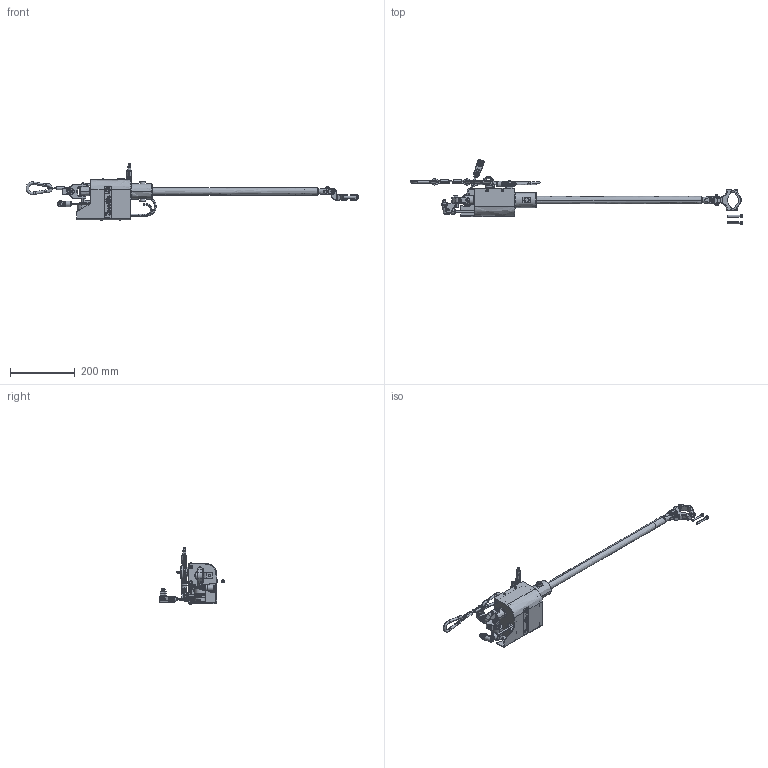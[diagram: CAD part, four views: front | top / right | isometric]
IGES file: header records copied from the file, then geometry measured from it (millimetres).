
Start section:  PTC IGES file: 6158121070.igs
Global section: file name: 6158121070.igs; native system: Creo Parametric by PTC Inc.; preprocessor: 2015200; author: greextsd; organization: Unknown; date: 20150825.092856; units: millimetre
Bounding box: 1026.32 x 200.49 x 174.75 mm (x, y, z)
Volume: 940333.2 mm3; surface area: 449268.1 mm2
Topology: 13 solids, 19 shells, 4174 faces, 10630 edges, 6572 vertices
Faces by surface type: revolution 2282, bspline 1793, extrusion 99
